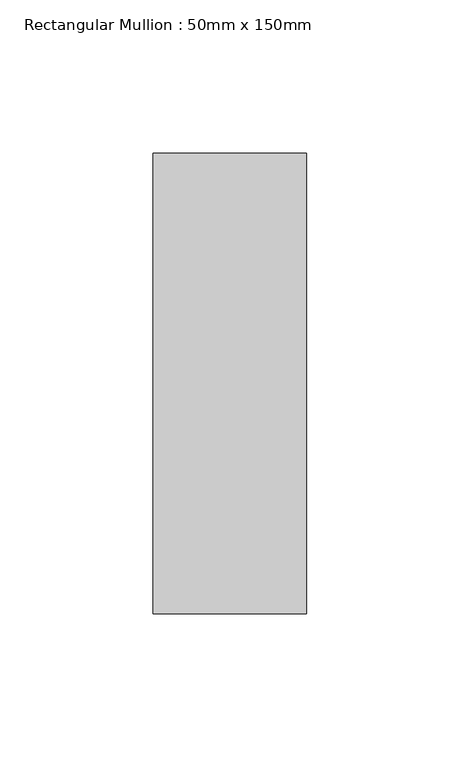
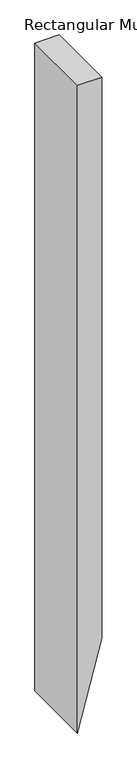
"""IFC4 building model written with IfcOpenShell, lengths in millimetres: member geometry, Rectangular Mullion : 50mm x 150mm."""

from ifc_helpers import new_model, si_unit, frame, origin, place, context, project, spatial, polyline, outline, extrude, source, transform, mapped, element, save


def rectangular_mullion_50mm_x_150mm_0a493d35(model_context):
    return source(origin(), model_context, "Body", "SweptSolid", [
        extrude(outline(polyline([(0.0, 25.0), (0.0, -25.0), (-1396.4032554, -25.0), (-1209.800715, 25.0), (0.0, 25.0)])), frame((0.0, -75.0, 0.0), z_axis=(0.0, 1.0, 0.0), x_axis=(0.0, 0.0, 1.0)), (0.0, 0.0, 1.0), 150.0),
    ])


if __name__ == "__main__":
    model = new_model("IFC4")
    model_context = context("Model", 3, world=origin())
    ifc_project = project(units=[si_unit("LENGTHUNIT", "METRE", prefix="MILLI")], contexts=[model_context])
    site = spatial("IfcSite", under=ifc_project)
    building = spatial("IfcBuilding", under=site)
    placement = place(None, origin())
    rectangular_mullion_50mm_x_150mm_shape = rectangular_mullion_50mm_x_150mm_0a493d35(model_context)
    element("IfcMember", 1, ObjectType="Rectangular Mullion : 50mm x 150mm", at=placement, inside=building, context=model_context, shape_type="MappedRepresentation", body=[
        mapped(rectangular_mullion_50mm_x_150mm_shape, transform((0.0, 0.0, 0.0), x_axis=(1.0, 0.0, 0.0), y_axis=(0.0, 1.0, 0.0), z_axis=(0.0, 0.0, 1.0))),
    ])
    save(model, "model.ifc")
